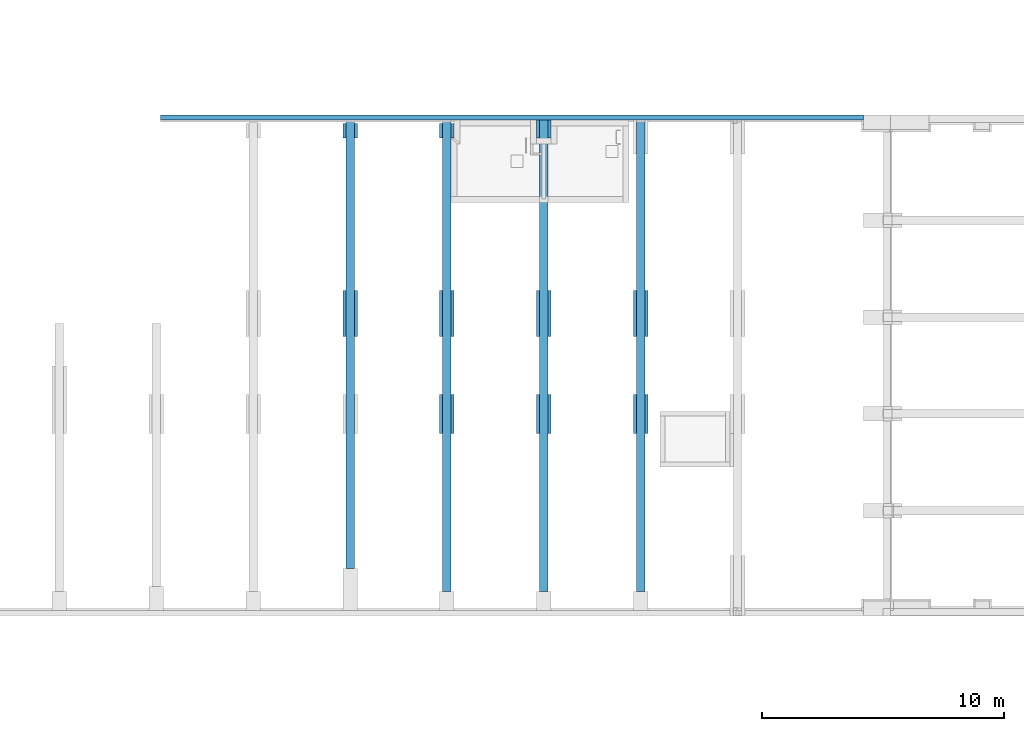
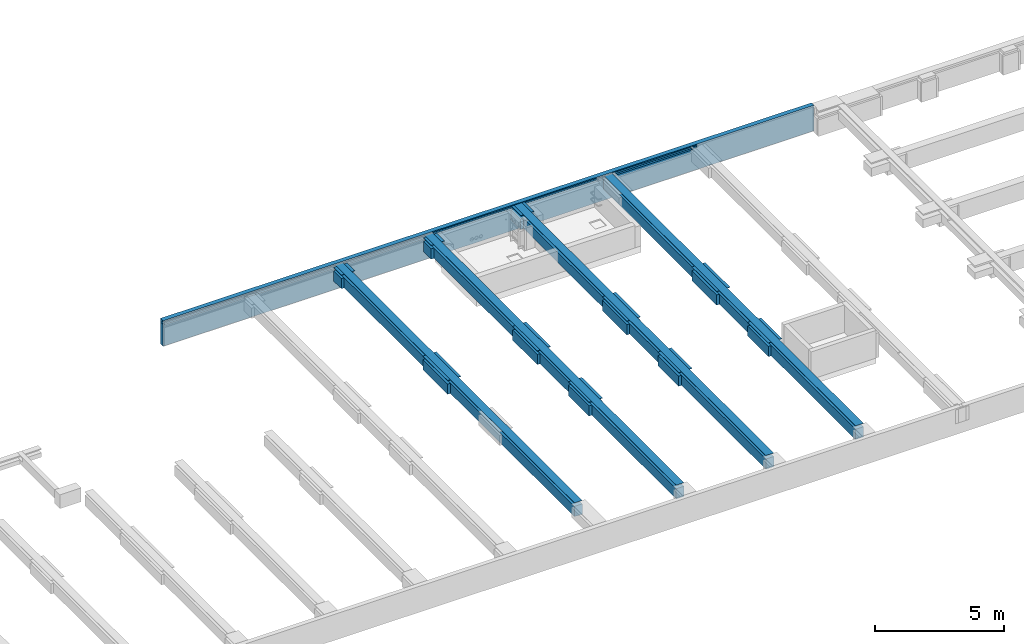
# One storey, part 6 of 17: 15 beams.
"""IFC2X3 building model written with IfcOpenShell, lengths in millimetres."""

from ifc_helpers import new_model, entity, si_unit, converted_unit, derived_unit, money_unit, direction, frame, origin_with_axes, place, context, subcontext, project, spatial, faceted_brep, material, type_object, element, save


model = new_model("IFC2X3")

# Units and contexts
model_context = context("Model", 3, precision=0.01, world=origin_with_axes(), true_north=direction((0.0, 1.0)))
body_context = subcontext(model_context, "Body", "Model", "MODEL_VIEW")
ifc_project = project(units=[si_unit("LENGTHUNIT", "METRE", prefix="MILLI"), si_unit("AREAUNIT", "SQUARE_METRE"), si_unit("VOLUMEUNIT", "CUBIC_METRE"), converted_unit("PLANEANGLEUNIT", "DEGREE", entity("IfcPlaneAngleMeasure", 0.0174532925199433), si_unit("PLANEANGLEUNIT", "RADIAN"), dimensions=[0, 0, 0, 0, 0, 0, 0]), money_unit("EUR"), converted_unit("TIMEUNIT", "Year", entity("IfcTimeMeasure", 31557600.0), si_unit("TIMEUNIT", "SECOND"), dimensions=[0, 0, 1, 0, 0, 0, 0]), si_unit("MASSUNIT", "GRAM", prefix="KILO"), si_unit("THERMODYNAMICTEMPERATUREUNIT", "DEGREE_CELSIUS"), si_unit("LUMINOUSINTENSITYUNIT", "LUMEN"), si_unit("ENERGYUNIT", "JOULE", prefix="MEGA"), derived_unit("THERMALCONDUCTANCEUNIT", [(si_unit("POWERUNIT", "WATT"), 1), (si_unit("LENGTHUNIT", "METRE"), -1), (si_unit("THERMODYNAMICTEMPERATUREUNIT", "KELVIN"), -1)]), derived_unit("SPECIFICHEATCAPACITYUNIT", [(si_unit("ENERGYUNIT", "JOULE"), 1), (si_unit("MASSUNIT", "GRAM", prefix="KILO"), -1), (si_unit("THERMODYNAMICTEMPERATUREUNIT", "KELVIN"), -1)]), derived_unit("MASSDENSITYUNIT", [(si_unit("MASSUNIT", "GRAM", prefix="KILO"), 1), (si_unit("VOLUMEUNIT", "CUBIC_METRE"), -1)])], contexts=[model_context])

# Site, building, storey
site_placement = place(None, origin_with_axes())
site = spatial("IfcSite", under=ifc_project, at=site_placement, Name="<site naam>", CompositionType="ELEMENT")
building_placement = place(site_placement, origin_with_axes())
building = spatial("IfcBuilding", under=site, at=building_placement, Name="<Naam gebouw>", CompositionType="ELEMENT")
storey_placement = place(building_placement, frame((0.0, 0.0, -1100.0), z_axis=(0.0, 0.0, 1.0), x_axis=(1.0, 0.0, 0.0)))
storey = spatial("IfcBuildingStorey", under=building, at=storey_placement, Name="-1 Fundering", CompositionType="ELEMENT", Elevation=-1100.0)

# Beams
ifc_material = material(Name="beton_gewapend C")
beam_type_1 = type_object("IfcBeamType", Name="beton_gewapend C 600 x 650", PredefinedType="BEAM")
beam_1_placement = place(storey_placement, frame((36000.00000000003, 13100.00000000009, 1070.0), z_axis=(0.0, 0.0, 1.0), x_axis=(-1.0, 0.0, 0.0)))
element("IfcBeam", 1, at=beam_1_placement, inside=storey, type_object=beam_type_1, material=ifc_material, Name="28_Balk_beton_gewapend", ObjectType="BEAM", context=body_context, shape_type="Brep", body=[
    faceted_brep([(299.9999999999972, 0.0, -650.0000000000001), (299.9999999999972, 0.0, -170.0), (174.9999999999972, 0.0, -170.0), (174.9999999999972, 0.0, -650.0000000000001), (299.9999999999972, 1905.54614990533, -650.0000000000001), (299.9999999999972, 1905.54614990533, -170.0), (174.9999999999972, 1905.54614990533, -170.0), (174.9999999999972, 1905.54614990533, -650.0000000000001)], [[[0, 1, 2, 3]], [[4, 5, 1, 0]], [[5, 6, 2, 1]], [[3, 2, 6, 7]], [[7, 4, 0, 3]], [[7, 6, 5, 4]]]),
    faceted_brep([(-174.9999999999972, 0.0, -650.0000000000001), (-174.9999999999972, 0.0, -170.0), (-299.9999999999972, 0.0, -170.0), (-299.9999999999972, 0.0, -650.0000000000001), (-174.9999999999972, 1905.54614990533, -650.0000000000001), (-174.9999999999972, 1905.54614990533, -170.0), (-299.9999999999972, 1905.54614990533, -170.0), (-299.9999999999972, 1905.54614990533, -650.0000000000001)], [[[0, 1, 2, 3]], [[4, 5, 1, 0]], [[5, 6, 2, 1]], [[3, 2, 6, 7]], [[0, 3, 7, 4]], [[7, 6, 5, 4]]]),
    faceted_brep([(174.9999999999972, 1905.54614990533, 0.0), (174.9999999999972, 1905.54614990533, -20.00000000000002), (174.9999999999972, 0.0, -20.00000000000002), (174.9999999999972, 0.0, 0.0), (299.9999999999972, 1905.54614990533, 0.0), (299.9999999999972, 1905.54614990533, -20.00000000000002), (299.9999999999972, 0.0, -20.00000000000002), (299.9999999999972, 0.0, 0.0)], [[[0, 1, 2, 3]], [[4, 5, 1, 0]], [[5, 6, 2, 1]], [[3, 2, 6, 7]], [[3, 7, 4, 0]], [[7, 6, 5, 4]]]),
    faceted_brep([(-299.9999999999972, 1905.54614990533, 0.0), (-299.9999999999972, 1905.54614990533, -20.00000000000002), (-299.9999999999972, 0.0, -20.00000000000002), (-299.9999999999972, 0.0, 0.0), (-174.9999999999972, 1905.54614990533, 0.0), (-174.9999999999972, 1905.54614990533, -20.00000000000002), (-174.9999999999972, 0.0, -20.00000000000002), (-174.9999999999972, 0.0, 0.0)], [[[0, 1, 2, 3]], [[4, 5, 1, 0]], [[5, 6, 2, 1]], [[3, 2, 6, 7]], [[4, 0, 3, 7]], [[7, 6, 5, 4]]]),
])
beam_2_placement = place(storey_placement, frame((36000.00000000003, 20000.00000000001, 1070.0), z_axis=(0.0, 0.0, 1.0), x_axis=(-1.0, 0.0, 0.0)))
element("IfcBeam", 2, at=beam_2_placement, inside=storey, type_object=beam_type_1, material=ifc_material, Name="28_Balk_beton_gewapend", ObjectType="BEAM", context=body_context, shape_type="Brep", body=[
    faceted_brep([(299.9999999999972, 0.0, -650.0000000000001), (299.9999999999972, 0.0, -170.0), (174.9999999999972, 0.0, -170.0), (174.9999999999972, 0.0, -650.0000000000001), (299.9999999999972, 600.0000000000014, -650.0000000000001), (299.9999999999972, 600.0000000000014, -170.0), (174.9999999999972, 600.0000000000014, -170.0), (174.9999999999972, 600.0000000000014, -650.0000000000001)], [[[0, 1, 2, 3]], [[4, 5, 1, 0]], [[5, 6, 2, 1]], [[3, 2, 6, 7]], [[7, 4, 0, 3]], [[7, 6, 5, 4]]]),
    faceted_brep([(-174.9999999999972, 0.0, -650.0000000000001), (-174.9999999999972, 0.0, -170.0), (-299.9999999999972, 0.0, -170.0), (-299.9999999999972, 0.0, -650.0000000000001), (-174.9999999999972, 600.0000000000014, -650.0000000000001), (-174.9999999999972, 600.0000000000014, -170.0), (-299.9999999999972, 600.0000000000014, -170.0), (-299.9999999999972, 600.0000000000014, -650.0000000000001)], [[[0, 1, 2, 3]], [[4, 5, 1, 0]], [[5, 6, 2, 1]], [[3, 2, 6, 7]], [[0, 3, 7, 4]], [[7, 6, 5, 4]]]),
    faceted_brep([(174.9999999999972, 600.0000000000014, 0.0), (174.9999999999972, 600.0000000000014, -20.00000000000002), (174.9999999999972, 0.0, -20.00000000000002), (174.9999999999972, 0.0, 0.0), (299.9999999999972, 600.0000000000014, 0.0), (299.9999999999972, 600.0000000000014, -20.00000000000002), (299.9999999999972, 0.0, -20.00000000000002), (299.9999999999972, 0.0, 0.0)], [[[0, 1, 2, 3]], [[4, 5, 1, 0]], [[5, 6, 2, 1]], [[3, 2, 6, 7]], [[3, 7, 4, 0]], [[7, 6, 5, 4]]]),
    faceted_brep([(-299.9999999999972, 600.0000000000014, 0.0), (-299.9999999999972, 600.0000000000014, -20.00000000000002), (-299.9999999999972, 0.0, -20.00000000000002), (-299.9999999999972, 0.0, 0.0), (-174.9999999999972, 600.0000000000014, 0.0), (-174.9999999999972, 600.0000000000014, -20.00000000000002), (-174.9999999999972, 0.0, -20.00000000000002), (-174.9999999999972, 0.0, 0.0)], [[[0, 1, 2, 3]], [[4, 5, 1, 0]], [[5, 6, 2, 1]], [[3, 2, 6, 7]], [[4, 0, 3, 7]], [[7, 6, 5, 4]]]),
])
beam_3_placement = place(storey_placement, frame((48000.00000000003, 13100.00000000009, 1070.0), z_axis=(0.0, 0.0, 1.0), x_axis=(-1.0, 0.0, 0.0)))
element("IfcBeam", 3, at=beam_3_placement, inside=storey, type_object=beam_type_1, material=ifc_material, Name="28_Balk_beton_gewapend", ObjectType="BEAM", context=body_context, shape_type="Brep", body=[
    faceted_brep([(299.9999999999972, 0.0, -650.0000000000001), (299.9999999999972, 0.0, -170.0), (174.9999999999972, 0.0, -170.0), (174.9999999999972, 0.0, -650.0000000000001), (299.9999999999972, 1905.54614990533, -650.0000000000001), (299.9999999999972, 1905.54614990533, -170.0), (174.9999999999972, 1905.54614990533, -170.0), (174.9999999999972, 1905.54614990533, -650.0000000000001)], [[[0, 1, 2, 3]], [[4, 5, 1, 0]], [[5, 6, 2, 1]], [[3, 2, 6, 7]], [[7, 4, 0, 3]], [[7, 6, 5, 4]]]),
    faceted_brep([(-174.9999999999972, 0.0, -650.0000000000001), (-174.9999999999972, 0.0, -170.0), (-299.9999999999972, 0.0, -170.0), (-299.9999999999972, 0.0, -650.0000000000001), (-174.9999999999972, 1905.54614990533, -650.0000000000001), (-174.9999999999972, 1905.54614990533, -170.0), (-299.9999999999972, 1905.54614990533, -170.0), (-299.9999999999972, 1905.54614990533, -650.0000000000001)], [[[0, 1, 2, 3]], [[4, 5, 1, 0]], [[5, 6, 2, 1]], [[3, 2, 6, 7]], [[0, 3, 7, 4]], [[7, 6, 5, 4]]]),
    faceted_brep([(174.9999999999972, 1905.54614990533, 0.0), (174.9999999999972, 1905.54614990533, -20.00000000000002), (174.9999999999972, 0.0, -20.00000000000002), (174.9999999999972, 0.0, 0.0), (299.9999999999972, 1905.54614990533, 0.0), (299.9999999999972, 1905.54614990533, -20.00000000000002), (299.9999999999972, 0.0, -20.00000000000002), (299.9999999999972, 0.0, 0.0)], [[[0, 1, 2, 3]], [[4, 5, 1, 0]], [[5, 6, 2, 1]], [[3, 2, 6, 7]], [[3, 7, 4, 0]], [[7, 6, 5, 4]]]),
    faceted_brep([(-299.9999999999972, 1905.54614990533, 0.0), (-299.9999999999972, 1905.54614990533, -20.00000000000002), (-299.9999999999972, 0.0, -20.00000000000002), (-299.9999999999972, 0.0, 0.0), (-174.9999999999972, 1905.54614990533, 0.0), (-174.9999999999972, 1905.54614990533, -20.00000000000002), (-174.9999999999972, 0.0, -20.00000000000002), (-174.9999999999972, 0.0, 0.0)], [[[0, 1, 2, 3]], [[4, 5, 1, 0]], [[5, 6, 2, 1]], [[3, 2, 6, 7]], [[4, 0, 3, 7]], [[7, 6, 5, 4]]]),
])
beam_4_placement = place(storey_placement, frame((48000.00000000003, 8794.453850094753, 1070.0), z_axis=(0.0, 0.0, 1.0), x_axis=(-1.0, 0.0, 0.0)))
element("IfcBeam", 4, at=beam_4_placement, inside=storey, type_object=beam_type_1, material=ifc_material, Name="28_Balk_beton_gewapend", ObjectType="BEAM", context=body_context, shape_type="Brep", body=[
    faceted_brep([(299.9999999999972, 0.0, -650.0000000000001), (299.9999999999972, 0.0, -170.0), (174.9999999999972, 0.0, -170.0), (174.9999999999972, 0.0, -650.0000000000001), (299.9999999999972, 1599.999999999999, -650.0000000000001), (299.9999999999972, 1599.999999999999, -170.0), (174.9999999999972, 1599.999999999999, -170.0), (174.9999999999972, 1599.999999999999, -650.0000000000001)], [[[0, 1, 2, 3]], [[4, 5, 1, 0]], [[5, 6, 2, 1]], [[3, 2, 6, 7]], [[7, 4, 0, 3]], [[7, 6, 5, 4]]]),
    faceted_brep([(-175.0000000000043, 0.0, -650.0000000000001), (-175.0000000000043, 0.0, -170.0), (-299.9999999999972, 0.0, -170.0), (-299.9999999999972, 0.0, -650.0000000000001), (-175.0000000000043, 1599.999999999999, -650.0000000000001), (-175.0000000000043, 1599.999999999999, -170.0), (-299.9999999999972, 1599.999999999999, -170.0), (-299.9999999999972, 1599.999999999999, -650.0000000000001)], [[[0, 1, 2, 3]], [[4, 5, 1, 0]], [[5, 6, 2, 1]], [[3, 2, 6, 7]], [[0, 3, 7, 4]], [[7, 6, 5, 4]]]),
    faceted_brep([(174.9999999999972, 1599.999999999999, 0.0), (174.9999999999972, 1599.999999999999, -20.00000000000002), (174.9999999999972, 0.0, -20.00000000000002), (174.9999999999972, 0.0, 0.0), (299.9999999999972, 1599.999999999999, 0.0), (299.9999999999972, 1599.999999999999, -20.00000000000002), (299.9999999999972, 0.0, -20.00000000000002), (299.9999999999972, 0.0, 0.0)], [[[0, 1, 2, 3]], [[4, 5, 1, 0]], [[5, 6, 2, 1]], [[3, 2, 6, 7]], [[3, 7, 4, 0]], [[7, 6, 5, 4]]]),
    faceted_brep([(-299.9999999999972, 1599.999999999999, 0.0), (-299.9999999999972, 1599.999999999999, -20.00000000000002), (-299.9999999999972, 0.0, -20.00000000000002), (-299.9999999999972, 0.0, 0.0), (-175.0000000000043, 1599.999999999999, 0.0), (-175.0000000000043, 1599.999999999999, -20.00000000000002), (-175.0000000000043, 0.0, -20.00000000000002), (-175.0000000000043, 0.0, 0.0)], [[[0, 1, 2, 3]], [[4, 5, 1, 0]], [[5, 6, 2, 1]], [[3, 2, 6, 7]], [[4, 0, 3, 7]], [[7, 6, 5, 4]]]),
])
beam_5_placement = place(storey_placement, frame((44000.00000000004, 13100.00000000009, 1070.0), z_axis=(0.0, 0.0, 1.0), x_axis=(-1.0, 0.0, 0.0)))
element("IfcBeam", 5, at=beam_5_placement, inside=storey, type_object=beam_type_1, material=ifc_material, Name="28_Balk_beton_gewapend", ObjectType="BEAM", context=body_context, shape_type="Brep", body=[
    faceted_brep([(299.9999999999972, 0.0, -650.0000000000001), (299.9999999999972, 0.0, -170.0), (174.9999999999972, 0.0, -170.0), (174.9999999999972, 0.0, -650.0000000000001), (299.9999999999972, 1905.54614990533, -650.0000000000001), (299.9999999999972, 1905.54614990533, -170.0), (174.9999999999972, 1905.54614990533, -170.0), (174.9999999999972, 1905.54614990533, -650.0000000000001)], [[[0, 1, 2, 3]], [[4, 5, 1, 0]], [[5, 6, 2, 1]], [[3, 2, 6, 7]], [[7, 4, 0, 3]], [[7, 6, 5, 4]]]),
    faceted_brep([(-174.9999999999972, 0.0, -650.0000000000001), (-174.9999999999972, 0.0, -170.0), (-299.9999999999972, 0.0, -170.0), (-299.9999999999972, 0.0, -650.0000000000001), (-174.9999999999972, 1905.54614990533, -650.0000000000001), (-174.9999999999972, 1905.54614990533, -170.0), (-299.9999999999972, 1905.54614990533, -170.0), (-299.9999999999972, 1905.54614990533, -650.0000000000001)], [[[0, 1, 2, 3]], [[4, 5, 1, 0]], [[5, 6, 2, 1]], [[3, 2, 6, 7]], [[0, 3, 7, 4]], [[7, 6, 5, 4]]]),
    faceted_brep([(174.9999999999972, 1905.54614990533, 0.0), (174.9999999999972, 1905.54614990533, -20.00000000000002), (174.9999999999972, 0.0, -20.00000000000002), (174.9999999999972, 0.0, 0.0), (299.9999999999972, 1905.54614990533, 0.0), (299.9999999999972, 1905.54614990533, -20.00000000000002), (299.9999999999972, 0.0, -20.00000000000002), (299.9999999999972, 0.0, 0.0)], [[[0, 1, 2, 3]], [[4, 5, 1, 0]], [[5, 6, 2, 1]], [[3, 2, 6, 7]], [[3, 7, 4, 0]], [[7, 6, 5, 4]]]),
    faceted_brep([(-299.9999999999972, 1905.54614990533, 0.0), (-299.9999999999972, 1905.54614990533, -20.00000000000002), (-299.9999999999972, 0.0, -20.00000000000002), (-299.9999999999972, 0.0, 0.0), (-174.9999999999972, 1905.54614990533, 0.0), (-174.9999999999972, 1905.54614990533, -20.00000000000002), (-174.9999999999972, 0.0, -20.00000000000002), (-174.9999999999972, 0.0, 0.0)], [[[0, 1, 2, 3]], [[4, 5, 1, 0]], [[5, 6, 2, 1]], [[3, 2, 6, 7]], [[4, 0, 3, 7]], [[7, 6, 5, 4]]]),
])
beam_6_placement = place(storey_placement, frame((44000.00000000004, 8794.453850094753, 1070.0), z_axis=(0.0, 0.0, 1.0), x_axis=(-1.0, 0.0, 0.0)))
element("IfcBeam", 6, at=beam_6_placement, inside=storey, type_object=beam_type_1, material=ifc_material, Name="28_Balk_beton_gewapend", ObjectType="BEAM", context=body_context, shape_type="Brep", body=[
    faceted_brep([(299.9999999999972, 0.0, -650.0000000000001), (299.9999999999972, 0.0, -170.0), (174.9999999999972, 0.0, -170.0), (174.9999999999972, 0.0, -650.0000000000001), (299.9999999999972, 1599.999999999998, -650.0000000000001), (299.9999999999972, 1599.999999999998, -170.0), (174.9999999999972, 1599.999999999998, -170.0), (174.9999999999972, 1599.999999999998, -650.0000000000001)], [[[0, 1, 2, 3]], [[4, 5, 1, 0]], [[5, 6, 2, 1]], [[3, 2, 6, 7]], [[7, 4, 0, 3]], [[7, 6, 5, 4]]]),
    faceted_brep([(-175.0000000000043, 0.0, -650.0000000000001), (-175.0000000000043, 0.0, -170.0), (-299.9999999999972, 0.0, -170.0), (-299.9999999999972, 0.0, -650.0000000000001), (-175.0000000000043, 1599.999999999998, -650.0000000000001), (-175.0000000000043, 1599.999999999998, -170.0), (-299.9999999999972, 1599.999999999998, -170.0), (-299.9999999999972, 1599.999999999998, -650.0000000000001)], [[[0, 1, 2, 3]], [[4, 5, 1, 0]], [[5, 6, 2, 1]], [[3, 2, 6, 7]], [[0, 3, 7, 4]], [[7, 6, 5, 4]]]),
    faceted_brep([(174.9999999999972, 1599.999999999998, 0.0), (174.9999999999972, 1599.999999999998, -20.00000000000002), (174.9999999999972, 0.0, -20.00000000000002), (174.9999999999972, 0.0, 0.0), (299.9999999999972, 1599.999999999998, 0.0), (299.9999999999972, 1599.999999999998, -20.00000000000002), (299.9999999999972, 0.0, -20.00000000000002), (299.9999999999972, 0.0, 0.0)], [[[0, 1, 2, 3]], [[4, 5, 1, 0]], [[5, 6, 2, 1]], [[3, 2, 6, 7]], [[3, 7, 4, 0]], [[7, 6, 5, 4]]]),
    faceted_brep([(-299.9999999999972, 1599.999999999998, 0.0), (-299.9999999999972, 1599.999999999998, -20.00000000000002), (-299.9999999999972, 0.0, -20.00000000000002), (-299.9999999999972, 0.0, 0.0), (-175.0000000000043, 1599.999999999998, 0.0), (-175.0000000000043, 1599.999999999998, -20.00000000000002), (-175.0000000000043, 0.0, -20.00000000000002), (-175.0000000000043, 0.0, 0.0)], [[[0, 1, 2, 3]], [[4, 5, 1, 0]], [[5, 6, 2, 1]], [[3, 2, 6, 7]], [[4, 0, 3, 7]], [[7, 6, 5, 4]]]),
])
beam_7_placement = place(storey_placement, frame((44000.00000000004, 20335.00000000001, 1070.0), z_axis=(0.0, 0.0, 1.0), x_axis=(-1.0, 0.0, 0.0)))
element("IfcBeam", 7, at=beam_7_placement, inside=storey, type_object=beam_type_1, material=ifc_material, Name="28_Balk_beton_gewapend", ObjectType="BEAM", context=body_context, shape_type="Brep", body=[
    faceted_brep([(299.9999999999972, 199.9999999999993, -650.0000000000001), (299.9999999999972, 199.9999999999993, -170.0), (174.9999999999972, 199.9999999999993, -170.0), (174.9999999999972, 199.9999999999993, -650.0000000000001), (299.9999999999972, 934.9999999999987, -650.0000000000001), (299.9999999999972, 934.9999999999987, -170.0), (174.9999999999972, 934.9999999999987, -170.0), (174.9999999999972, 934.9999999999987, -650.0000000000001)], [[[0, 1, 2, 3]], [[4, 5, 1, 0]], [[5, 6, 2, 1]], [[3, 2, 6, 7]], [[7, 4, 0, 3]], [[7, 6, 5, 4]]]),
    faceted_brep([(-174.9999999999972, 199.9999999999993, -650.0000000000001), (-174.9999999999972, 199.9999999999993, -170.0), (-299.9999999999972, 199.9999999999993, -170.0), (-299.9999999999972, 199.9999999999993, -650.0000000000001), (-174.9999999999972, 934.9999999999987, -650.0000000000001), (-174.9999999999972, 934.9999999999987, -170.0), (-299.9999999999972, 934.9999999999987, -170.0), (-299.9999999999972, 934.9999999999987, -650.0000000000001)], [[[0, 1, 2, 3]], [[4, 5, 1, 0]], [[5, 6, 2, 1]], [[3, 2, 6, 7]], [[7, 4, 0, 3]], [[7, 6, 5, 4]]]),
    faceted_brep([(174.9999999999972, 934.9999999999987, 0.0), (174.9999999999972, 934.9999999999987, -20.00000000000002), (174.9999999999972, 199.9999999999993, -20.00000000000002), (174.9999999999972, 199.9999999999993, 0.0), (299.9999999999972, 934.9999999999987, 0.0), (299.9999999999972, 934.9999999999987, -20.00000000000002), (299.9999999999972, 199.9999999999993, -20.00000000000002), (299.9999999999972, 199.9999999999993, 0.0)], [[[0, 1, 2, 3]], [[4, 5, 1, 0]], [[5, 6, 2, 1]], [[3, 2, 6, 7]], [[4, 0, 3, 7]], [[7, 6, 5, 4]]]),
    faceted_brep([(-299.9999999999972, 934.9999999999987, 0.0), (-299.9999999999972, 934.9999999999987, -20.00000000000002), (-299.9999999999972, 199.9999999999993, -20.00000000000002), (-299.9999999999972, 199.9999999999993, 0.0), (-174.9999999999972, 934.9999999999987, 0.0), (-174.9999999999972, 934.9999999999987, -20.00000000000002), (-174.9999999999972, 199.9999999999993, -20.00000000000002), (-174.9999999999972, 199.9999999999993, 0.0)], [[[0, 1, 2, 3]], [[4, 5, 1, 0]], [[5, 6, 2, 1]], [[3, 2, 6, 7]], [[4, 0, 3, 7]], [[7, 6, 5, 4]]]),
])
beam_8_placement = place(storey_placement, frame((40000.00000000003, 13100.00000000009, 1070.0), z_axis=(0.0, 0.0, 1.0), x_axis=(-1.0, 0.0, 0.0)))
element("IfcBeam", 8, at=beam_8_placement, inside=storey, type_object=beam_type_1, material=ifc_material, Name="28_Balk_beton_gewapend", ObjectType="BEAM", context=body_context, shape_type="Brep", body=[
    faceted_brep([(299.9999999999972, 0.0, -650.0000000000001), (299.9999999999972, 0.0, -170.0), (174.9999999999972, 0.0, -170.0), (174.9999999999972, 0.0, -650.0000000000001), (299.9999999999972, 1905.54614990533, -650.0000000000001), (299.9999999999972, 1905.54614990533, -170.0), (174.9999999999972, 1905.54614990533, -170.0), (174.9999999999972, 1905.546149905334, -650.0000000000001)], [[[0, 1, 2, 3]], [[4, 5, 1, 0]], [[5, 6, 2, 1]], [[3, 2, 6, 7]], [[7, 4, 0, 3]], [[7, 6, 5, 4]]]),
    faceted_brep([(-174.9999999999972, 0.0, -650.0000000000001), (-174.9999999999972, 0.0, -170.0), (-299.9999999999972, 0.0, -170.0), (-299.9999999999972, 0.0, -650.0000000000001), (-174.9999999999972, 1905.54614990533, -650.0000000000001), (-174.9999999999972, 1905.546149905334, -170.0), (-299.9999999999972, 1905.54614990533, -170.0), (-299.9999999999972, 1905.54614990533, -650.0000000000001)], [[[0, 1, 2, 3]], [[4, 5, 1, 0]], [[5, 6, 2, 1]], [[3, 2, 6, 7]], [[0, 3, 7, 4]], [[7, 6, 5, 4]]]),
    faceted_brep([(174.9999999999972, 1905.54614990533, 0.0), (174.9999999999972, 1905.54614990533, -20.00000000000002), (174.9999999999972, 0.0, -20.00000000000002), (174.9999999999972, 0.0, 0.0), (299.9999999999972, 1905.54614990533, 0.0), (299.9999999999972, 1905.54614990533, -20.00000000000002), (299.9999999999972, 0.0, -20.00000000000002), (299.9999999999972, 0.0, 0.0)], [[[0, 1, 2, 3]], [[4, 5, 1, 0]], [[5, 6, 2, 1]], [[3, 2, 6, 7]], [[3, 7, 4, 0]], [[7, 6, 5, 4]]]),
    faceted_brep([(-299.9999999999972, 1905.54614990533, 0.0), (-299.9999999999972, 1905.54614990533, -20.00000000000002), (-299.9999999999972, 0.0, -20.00000000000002), (-299.9999999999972, 0.0, 0.0), (-174.9999999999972, 1905.546149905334, 0.0), (-174.9999999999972, 1905.546149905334, -20.00000000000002), (-174.9999999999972, 0.0, -20.00000000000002), (-174.9999999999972, 0.0, 0.0)], [[[0, 1, 2, 3]], [[4, 5, 1, 0]], [[5, 6, 2, 1]], [[3, 2, 6, 7]], [[4, 0, 3, 7]], [[7, 6, 5, 4]]]),
])
beam_9_placement = place(storey_placement, frame((40000.00000000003, 8794.453850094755, 1070.0), z_axis=(0.0, 0.0, 1.0), x_axis=(-1.0, 0.0, 0.0)))
element("IfcBeam", 9, at=beam_9_placement, inside=storey, type_object=beam_type_1, material=ifc_material, Name="28_Balk_beton_gewapend", ObjectType="BEAM", context=body_context, shape_type="Brep", body=[
    faceted_brep([(299.9999999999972, 0.0, -650.0000000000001), (299.9999999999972, 0.0, -170.0), (174.9999999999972, 0.0, -170.0), (174.9999999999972, 0.0, -650.0000000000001), (299.9999999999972, 1600.0, -650.0000000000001), (299.9999999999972, 1600.0, -170.0), (174.9999999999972, 1600.0, -170.0), (174.9999999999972, 1600.0, -650.0000000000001)], [[[0, 1, 2, 3]], [[4, 5, 1, 0]], [[5, 6, 2, 1]], [[3, 2, 6, 7]], [[7, 4, 0, 3]], [[7, 6, 5, 4]]]),
    faceted_brep([(-175.0000000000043, 0.0, -650.0000000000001), (-175.0000000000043, 0.0, -170.0), (-299.9999999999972, 0.0, -170.0), (-299.9999999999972, 0.0, -650.0000000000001), (-175.0000000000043, 1600.0, -650.0000000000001), (-175.0000000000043, 1600.0, -170.0), (-299.9999999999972, 1600.0, -170.0), (-299.9999999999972, 1600.0, -650.0000000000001)], [[[0, 1, 2, 3]], [[4, 5, 1, 0]], [[5, 6, 2, 1]], [[3, 2, 6, 7]], [[0, 3, 7, 4]], [[7, 6, 5, 4]]]),
    faceted_brep([(174.9999999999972, 1600.0, 0.0), (174.9999999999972, 1600.0, -20.00000000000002), (174.9999999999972, 0.0, -20.00000000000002), (174.9999999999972, 0.0, 0.0), (299.9999999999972, 1600.0, 0.0), (299.9999999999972, 1600.0, -20.00000000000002), (299.9999999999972, 0.0, -20.00000000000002), (299.9999999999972, 0.0, 0.0)], [[[0, 1, 2, 3]], [[4, 5, 1, 0]], [[5, 6, 2, 1]], [[3, 2, 6, 7]], [[3, 7, 4, 0]], [[7, 6, 5, 4]]]),
    faceted_brep([(-299.9999999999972, 1600.0, 0.0), (-299.9999999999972, 1600.0, -20.00000000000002), (-299.9999999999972, 0.0, -20.00000000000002), (-299.9999999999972, 0.0, 0.0), (-175.0000000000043, 1600.0, 0.0), (-175.0000000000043, 1600.0, -20.00000000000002), (-175.0000000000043, 0.0, -20.00000000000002), (-175.0000000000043, 0.0, 0.0)], [[[0, 1, 2, 3]], [[4, 5, 1, 0]], [[5, 6, 2, 1]], [[3, 2, 6, 7]], [[4, 0, 3, 7]], [[7, 6, 5, 4]]]),
])
beam_10_placement = place(storey_placement, frame((40000.00000000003, 20000.00000000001, 1070.0), z_axis=(0.0, 0.0, 1.0), x_axis=(-1.0, 0.0, 0.0)))
element("IfcBeam", 10, at=beam_10_placement, inside=storey, type_object=beam_type_1, material=ifc_material, Name="28_Balk_beton_gewapend", ObjectType="BEAM", context=body_context, shape_type="Brep", body=[
    faceted_brep([(299.9999999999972, 0.0, -650.0000000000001), (299.9999999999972, 0.0, -170.0), (174.9999999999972, 0.0, -170.0), (174.9999999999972, 0.0, -650.0000000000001), (299.9999999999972, 600.0000000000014, -650.0000000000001), (299.9999999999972, 600.0000000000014, -170.0), (174.9999999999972, 600.0000000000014, -170.0), (174.9999999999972, 600.0000000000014, -650.0000000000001)], [[[0, 1, 2, 3]], [[4, 5, 1, 0]], [[5, 6, 2, 1]], [[3, 2, 6, 7]], [[7, 4, 0, 3]], [[7, 6, 5, 4]]]),
    faceted_brep([(-174.9999999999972, 0.0, -650.0000000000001), (-174.9999999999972, 0.0, -170.0), (-299.9999999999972, 0.0, -170.0), (-299.9999999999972, 0.0, -650.0000000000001), (-174.9999999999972, 600.0000000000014, -650.0000000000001), (-174.9999999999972, 600.0000000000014, -170.0), (-299.9999999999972, 600.0000000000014, -170.0), (-299.9999999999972, 600.0000000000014, -650.0000000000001)], [[[0, 1, 2, 3]], [[4, 5, 1, 0]], [[5, 6, 2, 1]], [[3, 2, 6, 7]], [[0, 3, 7, 4]], [[7, 6, 5, 4]]]),
    faceted_brep([(174.9999999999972, 600.0000000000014, 0.0), (174.9999999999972, 600.0000000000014, -20.00000000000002), (174.9999999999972, 0.0, -20.00000000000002), (174.9999999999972, 0.0, 0.0), (299.9999999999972, 600.0000000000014, 0.0), (299.9999999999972, 600.0000000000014, -20.00000000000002), (299.9999999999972, 0.0, -20.00000000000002), (299.9999999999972, 0.0, 0.0)], [[[0, 1, 2, 3]], [[4, 5, 1, 0]], [[5, 6, 2, 1]], [[3, 2, 6, 7]], [[3, 7, 4, 0]], [[7, 6, 5, 4]]]),
    faceted_brep([(-299.9999999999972, 600.0000000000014, 0.0), (-299.9999999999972, 600.0000000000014, -20.00000000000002), (-299.9999999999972, 0.0, -20.00000000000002), (-299.9999999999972, 0.0, 0.0), (-174.9999999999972, 600.0000000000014, 0.0), (-174.9999999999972, 600.0000000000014, -20.00000000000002), (-174.9999999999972, 0.0, -20.00000000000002), (-174.9999999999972, 0.0, 0.0)], [[[0, 1, 2, 3]], [[4, 5, 1, 0]], [[5, 6, 2, 1]], [[3, 2, 6, 7]], [[4, 0, 3, 7]], [[7, 6, 5, 4]]]),
])
beam_type_2 = type_object("IfcBeamType", Name="beton_gewapend C 350 x 650", PredefinedType="BEAM")
beam_11_placement = place(storey_placement, frame((36000.00000000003, 20335.00000000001, 1070.0), z_axis=(0.0, 0.0, 1.0), x_axis=(-1.0, 0.0, 0.0)))
element("IfcBeam", 11, at=beam_11_placement, inside=storey, type_object=beam_type_2, material=ifc_material, Name="28_Balk_beton_gewapend", ObjectType="BEAM", context=body_context, shape_type="Brep", body=[
    faceted_brep([(174.9999999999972, 200.0000000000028, -650.0000000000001), (174.9999999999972, 200.0000000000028, -170.0), (-174.9999999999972, 200.0000000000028, -170.0), (-174.9999999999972, 200.0000000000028, -650.0000000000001), (174.9999999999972, 18724.99999999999, -650.0000000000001), (174.9999999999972, 18724.99999999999, -170.0), (-175.0000000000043, 18724.99999999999, -170.0), (-175.0000000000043, 18724.99999999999, -650.0000000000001)], [[[0, 1, 2, 3]], [[4, 5, 1, 0]], [[5, 6, 2, 1]], [[3, 2, 6, 7]], [[7, 4, 0, 3]], [[7, 6, 5, 4]]]),
    faceted_brep([(-175.0000000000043, 18724.99999999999, 0.0), (-175.0000000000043, 18724.99999999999, -20.00000000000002), (-174.9999999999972, 200.0000000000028, -20.00000000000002), (-174.9999999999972, 200.0000000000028, 0.0), (174.9999999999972, 18724.99999999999, 0.0), (174.9999999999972, 18724.99999999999, -20.00000000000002), (174.9999999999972, 200.0000000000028, -20.00000000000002), (174.9999999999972, 200.0000000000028, 0.0)], [[[0, 1, 2, 3]], [[4, 5, 1, 0]], [[5, 6, 2, 1]], [[3, 2, 6, 7]], [[4, 0, 3, 7]], [[7, 6, 5, 4]]]),
])
for number, where, z_axis, x_axis, name in (
    (12, (48000.00000000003, 20335.00000000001, 1070.0), (0.0, 0.0, 1.0), (-1.0, 0.0, 0.0), "28_Balk_beton_gewapend"),
    (13, (44000.00000000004, 20335.00000000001, 1070.0), (0.0, 0.0, 1.0), (-1.0, 0.0, 0.0), "28_Balk_beton_gewapend"),
):
    element("IfcBeam", number, at=place(storey_placement, frame(where, z_axis=z_axis, x_axis=x_axis)), inside=storey, type_object=beam_type_2, material=ifc_material, Name=name, ObjectType="BEAM", context=body_context, shape_type="Brep", body=[
        faceted_brep([(174.9999999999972, 199.9999999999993, -650.0000000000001), (174.9999999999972, 199.9999999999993, -170.0), (-174.9999999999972, 199.9999999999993, -170.0), (-174.9999999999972, 199.9999999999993, -650.0000000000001), (174.9999999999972, 19659.99998629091, -650.0000000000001), (174.9999999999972, 19659.99998629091, -170.0), (-175.0000000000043, 19659.99998629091, -170.0), (-175.0000000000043, 19659.99998629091, -650.0000000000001)], [[[0, 1, 2, 3]], [[4, 5, 1, 0]], [[5, 6, 2, 1]], [[3, 2, 6, 7]], [[7, 4, 0, 3]], [[7, 6, 5, 4]]]),
        faceted_brep([(-175.0000000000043, 19659.99998629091, 0.0), (-175.0000000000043, 19659.99998629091, -20.00000000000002), (-174.9999999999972, 199.9999999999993, -20.00000000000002), (-174.9999999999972, 199.9999999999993, 0.0), (174.9999999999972, 19659.99998629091, 0.0), (174.9999999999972, 19659.99998629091, -20.00000000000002), (174.9999999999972, 199.9999999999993, -20.00000000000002), (174.9999999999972, 199.9999999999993, 0.0)], [[[0, 1, 2, 3]], [[4, 5, 1, 0]], [[5, 6, 2, 1]], [[3, 2, 6, 7]], [[4, 0, 3, 7]], [[7, 6, 5, 4]]]),
    ])
beam_12_placement = place(storey_placement, frame((40000.00000000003, 20335.00000000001, 1070.0), z_axis=(0.0, 0.0, 1.0), x_axis=(-1.0, 0.0, 0.0)))
element("IfcBeam", 14, at=beam_12_placement, inside=storey, type_object=beam_type_2, material=ifc_material, Name="28_Balk_beton_gewapend", ObjectType="BEAM", context=body_context, shape_type="Brep", body=[
    faceted_brep([(174.9999999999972, 200.0000000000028, -650.0000000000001), (174.9999999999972, 200.0000000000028, -170.0), (-174.9999999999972, 200.0000000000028, -170.0), (-174.9999999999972, 200.0000000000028, -650.0000000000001), (174.9999999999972, 19659.99999999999, -650.0000000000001), (174.9999999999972, 19659.99999999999, -170.0), (-175.0000000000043, 19659.99999999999, -170.0), (-175.0000000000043, 19659.99999999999, -650.0000000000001)], [[[0, 1, 2, 3]], [[4, 5, 1, 0]], [[5, 6, 2, 1]], [[3, 2, 6, 7]], [[7, 4, 0, 3]], [[7, 6, 5, 4]]]),
    faceted_brep([(-175.0000000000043, 19659.99999999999, 0.0), (-175.0000000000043, 19659.99999999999, -20.00000000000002), (-174.9999999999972, 200.0000000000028, -20.00000000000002), (-174.9999999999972, 200.0000000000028, 0.0), (174.9999999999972, 19659.99999999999, 0.0), (174.9999999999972, 19659.99999999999, -20.00000000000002), (174.9999999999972, 200.0000000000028, -20.00000000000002), (174.9999999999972, 200.0000000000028, 0.0)], [[[0, 1, 2, 3]], [[4, 5, 1, 0]], [[5, 6, 2, 1]], [[3, 2, 6, 7]], [[4, 0, 3, 7]], [[7, 6, 5, 4]]]),
])
beam_type_3 = type_object("IfcBeamType", Name="beton_gewapend C 200 x 1200", PredefinedType="BEAM")
beam_13_placement = place(storey_placement, frame((28175.00000000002, 20335.00000000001, 1100.0), z_axis=(0.0, 0.0, 1.0), x_axis=(0.0, -1.0, 0.0)))
element("IfcBeam", 15, at=beam_13_placement, inside=storey, type_object=beam_type_3, material=ifc_material, Name="28_Balk_beton_gewapend", ObjectType="BEAM", context=body_context, shape_type="Brep", body=[
    faceted_brep([(199.9999999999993, 23599.99999903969, -30.00000000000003), (199.9999999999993, 23599.99999903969, -50.00000000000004), (109.9934376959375, 23599.99999903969, -50.00000000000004), (109.9934376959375, 23599.99999903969, -30.00000000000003), (199.9999999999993, 0.0, 0.0), (199.9999999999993, 0.0, -50.00000000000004), (199.9999999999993, 23803.99993868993, -30.00000000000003), (199.9999999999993, 23803.99993868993, -150.0), (199.9999999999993, 23599.99999903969, -150.0), (199.9999999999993, 23599.99999903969, -200.0), (199.9999999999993, 0.0, -199.9999999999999), (199.9999999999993, 0.0, -1200.0), (199.9999999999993, 29025.00000000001, -1200.0), (199.9999999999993, 29025.00000000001, 0.0), (109.9934376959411, 0.0, -50.00000000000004), (109.9934376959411, 0.0, -200.0), (109.9934376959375, 23599.99999903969, -200.0), (109.9934376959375, 23599.99999903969, -150.0), (109.9934376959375, 23803.99993868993, -150.0), (109.9934376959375, 23803.99993868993, -30.00000000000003), (0.0, 0.0, 0.0), (0.0, 0.0, -1200.0), (0.0, 29025.00000000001, -1200.0), (0.0, 29025.00000000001, 0.0)], [[[0, 1, 2, 3]], [[4, 5, 1, 0, 6, 7, 8, 9, 10, 11, 12, 13]], [[14, 2, 1, 5]], [[3, 2, 14, 15, 16, 17, 18, 19]], [[19, 6, 0, 3]], [[15, 14, 5, 4, 20, 21, 11, 10]], [[18, 7, 6, 19]], [[18, 17, 8, 7]], [[9, 8, 17, 16]], [[15, 10, 9, 16]], [[11, 21, 22, 12]], [[13, 12, 22, 23]], [[20, 4, 13, 23]], [[21, 20, 23, 22]]]),
])

save(model, "model.ifc")
